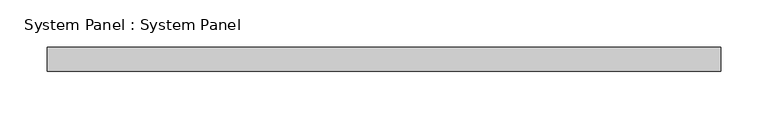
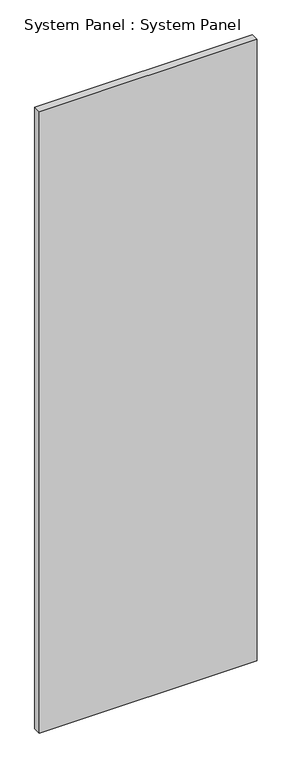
"""IFC4 building model written with IfcOpenShell, lengths in millimetres: plate geometry, System Panel : System Panel."""

import ifcopenshell
import ifcopenshell.guid

model = None  # the IFC model being written
_history = None  # IfcOwnerHistory: only IFC2X3 demands one
_inside = {}  # id of a spatial element -> (the spatial element, [elements in it])
_under = {}  # id of a project, library or spatial element -> (it, [spatial elements below it])
_declared = {}  # id of a project -> (the project, [libraries it declares])
_typed = {}  # id of a type object -> (the type object, [elements of that type])
_made_of = {}  # id of a material, layer set ... -> (it, [elements and type objects made of it])


def new_model(schema):
    """Start an empty IFC model of exactly this schema.

    Asked for "IFC4X3", IfcOpenShell would pick the latest addendum, in which some entities
    have other attributes; the version numbers below select the first issue.
    IFC2X3 requires an IfcOwnerHistory on every rooted entity: one is made here for all.
    """
    global model, _history
    if schema == "IFC4X3":
        model = ifcopenshell.file(schema_version=(4, 3, 0, 0))
    else:
        model = ifcopenshell.file(schema=schema)
    _inside.clear()
    _under.clear()
    _declared.clear()
    _typed.clear()
    _made_of.clear()
    _history = None
    if model.schema == "IFC2X3":
        org = make("IfcOrganization", Name="unknown")
        user = make(
            "IfcPersonAndOrganization",
            ThePerson=make("IfcPerson", FamilyName="unknown"),
            TheOrganization=org,
        )
        app = make(
            "IfcApplication",
            ApplicationDeveloper=org,
            Version="unknown",
            ApplicationFullName="unknown",
            ApplicationIdentifier="unknown",
        )
        _history = make(
            "IfcOwnerHistory",
            OwningUser=user,
            OwningApplication=app,
            ChangeAction="ADDED",
            CreationDate=0,
        )
    return model


def make(cls, **values):
    """One entity of the class cls with the attributes given. An attribute that is None is left unset."""
    return model.create_entity(
        cls, **{name: value for name, value in values.items() if value is not None}
    )


def rooted(cls, **values):
    """An entity with a GlobalId (a new one), such as an element, a storey or a relation."""
    return make(cls, GlobalId=ifcopenshell.guid.new(), OwnerHistory=_history, **values)


def si_unit(unit_type, name, prefix=None):
    """IfcSIUnit, for example si_unit("LENGTHUNIT", "METRE", prefix="MILLI")."""
    return make("IfcSIUnit", UnitType=unit_type, Prefix=prefix, Name=name)


def assignment(units):
    """IfcUnitAssignment: the units of a project."""
    return None if units is None else make("IfcUnitAssignment", Units=units)


def point(xyz):
    """IfcCartesianPoint."""
    return None if xyz is None else make("IfcCartesianPoint", Coordinates=xyz)


def direction(xyz):
    """IfcDirection."""
    return None if xyz is None else make("IfcDirection", DirectionRatios=xyz)


def frame(location, z_axis=None, x_axis=None):
    """IfcAxis2Placement3D, a coordinate frame: its origin and axes. An axis left out is left unset."""
    return make(
        "IfcAxis2Placement3D",
        Location=point(location),
        Axis=direction(z_axis),
        RefDirection=direction(x_axis),
    )


def origin():
    """The frame at (0, 0, 0) with its axes left unset."""
    return frame((0.0, 0.0, 0.0))


def origin_with_axes():
    """The frame at (0, 0, 0) with the z axis (0, 0, 1) and the x axis (1, 0, 0) written out."""
    return frame((0.0, 0.0, 0.0), z_axis=(0.0, 0.0, 1.0), x_axis=(1.0, 0.0, 0.0))


def place(relative_to, where):
    """IfcLocalPlacement: puts the frame where relative to a parent placement (None: the world)."""
    return make(
        "IfcLocalPlacement", PlacementRelTo=relative_to, RelativePlacement=where
    )


def context(
    kind, dimensions, precision=None, world=None, true_north=None, identifier=None
):
    """IfcGeometricRepresentationContext, for example the 3D "Model" context."""
    return make(
        "IfcGeometricRepresentationContext",
        ContextIdentifier=identifier,
        ContextType=kind,
        CoordinateSpaceDimension=dimensions,
        Precision=precision,
        WorldCoordinateSystem=world,
        TrueNorth=true_north,
    )


def project(units=None, contexts=None):
    """IfcProject with its units and contexts."""
    return rooted(
        "IfcProject",
        Name="project",
        RepresentationContexts=contexts,
        UnitsInContext=assignment(units),
    )


def spatial(cls, under=None, at=None, **own):
    """A site, building, storey or space (cls), placed at a placement, below another one or the project."""
    s = rooted(cls, ObjectPlacement=at, **own)
    if under is not None:
        _under.setdefault(under.id(), (under, []))[1].append(s)
    return s


def polyline(points):
    """IfcPolyline through the points."""
    return make("IfcPolyline", Points=[point(p) for p in points])


def outline(outer, holes=None, kind="AREA"):
    """IfcArbitraryClosedProfileDef: a profile drawn as a closed curve; with holes, ...WithVoids."""
    if holes is None:
        return make("IfcArbitraryClosedProfileDef", ProfileType=kind, OuterCurve=outer)
    return make(
        "IfcArbitraryProfileDefWithVoids",
        ProfileType=kind,
        OuterCurve=outer,
        InnerCurves=holes,
    )


def extrude(swept, where, along, depth):
    """IfcExtrudedAreaSolid: the profile swept, set in the frame where, extruded along a direction by depth."""
    return make(
        "IfcExtrudedAreaSolid",
        SweptArea=swept,
        Position=where,
        ExtrudedDirection=direction(along),
        Depth=depth,
    )


def shape(context_of_items, identifier, shape_type, items):
    """IfcShapeRepresentation: the items that make up one representation, for example the "Body"."""
    return make(
        "IfcShapeRepresentation",
        ContextOfItems=context_of_items,
        RepresentationIdentifier=identifier,
        RepresentationType=shape_type,
        Items=items,
    )


def source(mapping_origin, context_of_items, identifier, shape_type, items):
    """IfcRepresentationMap: a shape defined once, which mapped items show again and again."""
    return make(
        "IfcRepresentationMap",
        MappingOrigin=mapping_origin,
        MappedRepresentation=shape(context_of_items, identifier, shape_type, items),
    )


def transform(
    local_origin,
    x_axis=None,
    y_axis=None,
    z_axis=None,
    scale=None,
    scale2=None,
    scale3=None,
    uniform=True,
):
    """IfcCartesianTransformationOperator3D, or its non-uniform kind. x_axis, y_axis, z_axis: its Axis1, 2, 3."""
    if uniform:
        return make(
            "IfcCartesianTransformationOperator3D",
            Axis1=direction(x_axis),
            Axis2=direction(y_axis),
            LocalOrigin=point(local_origin),
            Scale=scale,
            Axis3=direction(z_axis),
        )
    return make(
        "IfcCartesianTransformationOperator3DnonUniform",
        Axis1=direction(x_axis),
        Axis2=direction(y_axis),
        LocalOrigin=point(local_origin),
        Scale=scale,
        Axis3=direction(z_axis),
        Scale2=scale2,
        Scale3=scale3,
    )


def mapped(mapping_source, mapping_target):
    """IfcMappedItem: shows the shape of a source again, moved by a transform."""
    return make(
        "IfcMappedItem", MappingSource=mapping_source, MappingTarget=mapping_target
    )


def made_of(thing, what):
    """Note that an element or type object is made of a material, layer set ...; save() writes the relation."""
    if what is not None:
        _made_of.setdefault(what.id(), (what, []))[1].append(thing)
    return thing


def element(
    cls,
    number,
    at=None,
    inside=None,
    cuts=None,
    type_object=None,
    material=None,
    context=None,
    identifier="Body",
    shape_type=None,
    held_by="IfcProductDefinitionShape",
    body=None,
    shapes=None,
    **own,
):
    """One element of the class cls, such as IfcWall. Its Tag is "e" and its number.

    at: its placement. inside: the storey or other place that contains it. cuts: it is an
    opening in that element (IfcRelVoidsElement). A single representation is given by context,
    identifier, shape_type and body (its items); several are given by shapes. held_by: the class
    of the entity that holds the representations. save() writes the other relations.
    """
    e = rooted(cls, Tag="e%d" % number, ObjectPlacement=at, **own)
    if body is not None:
        shapes = [shape(context, identifier, shape_type, body)]
    if shapes is not None:
        e.Representation = make(held_by, Representations=shapes)
    if inside is not None:
        _inside.setdefault(inside.id(), (inside, []))[1].append(e)
    if cuts is not None:
        rooted(
            "IfcRelVoidsElement", RelatingBuildingElement=cuts, RelatedOpeningElement=e
        )
    if type_object is not None:
        _typed.setdefault(type_object.id(), (type_object, []))[1].append(e)
    return made_of(e, material)


def aggregate(whole, parts):
    """IfcRelAggregates: a whole, such as a stair, and the parts it consists of."""
    return rooted("IfcRelAggregates", RelatingObject=whole, RelatedObjects=parts)


def save(model, path):
    """Write the relations noted so far, then the file.

    IfcRelAggregates (storeys below a building ...), IfcRelContainedInSpatialStructure (elements
    in a storey), IfcRelDefinesByType, IfcRelAssociatesMaterial and IfcRelDeclares: one each for
    every whole, place, type object, material and project.
    """
    for whole, parts in _under.values():
        aggregate(whole, parts)
    for where, things in _inside.values():
        rooted(
            "IfcRelContainedInSpatialStructure",
            RelatedElements=things,
            RelatingStructure=where,
        )
    for kind, things in _typed.values():
        rooted("IfcRelDefinesByType", RelatedObjects=things, RelatingType=kind)
    for what, things in _made_of.values():
        rooted("IfcRelAssociatesMaterial", RelatedObjects=things, RelatingMaterial=what)
    for by, libraries in _declared.values():
        rooted("IfcRelDeclares", RelatingContext=by, RelatedDefinitions=libraries)
    model.write(path)


def system_panel_system_panel_e4e5b0d0(model_context):
    return source(origin(), model_context, "Body", "SweptSolid", [
        extrude(outline(polyline([(355.0, 24.5), (-355.0, 24.5), (-355.0, 49.5), (355.0, 49.5), (355.0, 24.5)])), origin_with_axes(), (0.0, 0.0, 1.0), 2140.3111283),
    ])


if __name__ == "__main__":
    model = new_model("IFC4")
    model_context = context("Model", 3, world=origin())
    ifc_project = project(units=[si_unit("LENGTHUNIT", "METRE", prefix="MILLI")], contexts=[model_context])
    site = spatial("IfcSite", under=ifc_project)
    building = spatial("IfcBuilding", under=site)
    placement = place(None, origin())
    system_panel_system_panel_shape = system_panel_system_panel_e4e5b0d0(model_context)
    element("IfcPlate", 1, ObjectType="System Panel : System Panel", at=placement, inside=building, context=model_context, shape_type="MappedRepresentation", body=[
        mapped(system_panel_system_panel_shape, transform((0.0, 0.0, 0.0), x_axis=(1.0, 0.0, 0.0), y_axis=(0.0, 1.0, 0.0), z_axis=(0.0, 0.0, 1.0))),
    ])
    save(model, "model.ifc")
